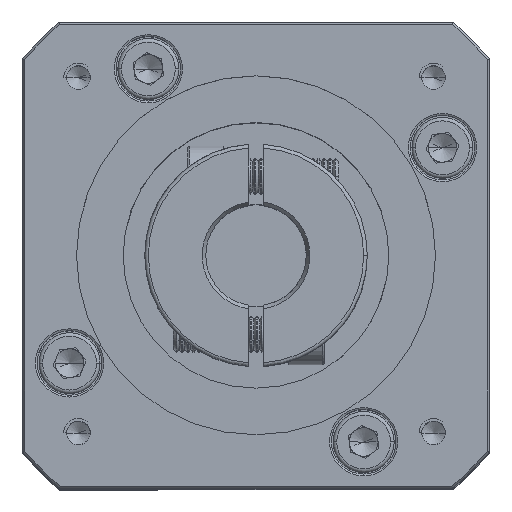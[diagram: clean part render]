
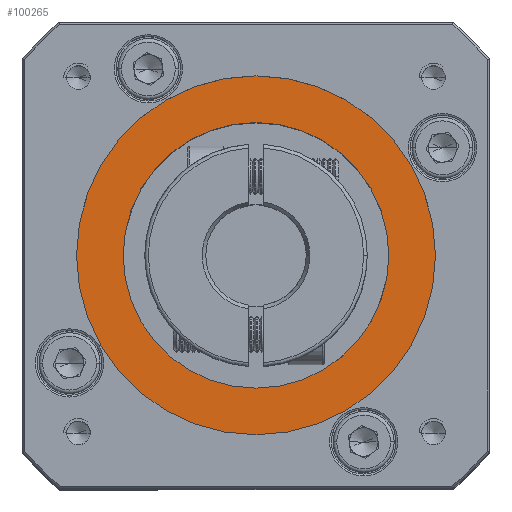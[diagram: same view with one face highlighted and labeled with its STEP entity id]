
A CAD part, top view. The second image highlights one B-rep face of the part: STEP entity #100265.
In plain terms, the highlighted planar face has unit normal (0, 0, 1).
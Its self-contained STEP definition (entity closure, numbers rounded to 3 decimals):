
#2747 = EDGE_CURVE ( 'NONE', #34158, #24215, #83728, .T. ) ;
#3160 = FACE_OUTER_BOUND ( 'NONE', #17713, .T. ) ;
#6562 = CARTESIAN_POINT ( 'NONE',  ( -3.116, 13.876, 148.65 ) ) ;
#14926 = DIRECTION ( 'NONE',  ( 0., 0., 1. ) ) ;
#15004 = CARTESIAN_POINT ( 'NONE',  ( 15.384, 13.876, 148.65 ) ) ;
#15144 = CARTESIAN_POINT ( 'NONE',  ( 15.384, 13.876, 148.65 ) ) ;
#15447 = DIRECTION ( 'NONE',  ( 1., 0., 0. ) ) ;
#17713 = EDGE_LOOP ( 'NONE', ( #76106, #20527 ) ) ;
#20527 = ORIENTED_EDGE ( 'NONE', *, *, #2747, .T. ) ;
#22945 = DIRECTION ( 'NONE',  ( 1., 0., 0. ) ) ;
#24215 = VERTEX_POINT ( 'NONE', #94995 ) ;
#25136 = DIRECTION ( 'NONE',  ( 0., 0., -1. ) ) ;
#30129 = DIRECTION ( 'NONE',  ( 0., 0., 1. ) ) ;
#32185 = EDGE_CURVE ( 'NONE', #24215, #34158, #81584, .T. ) ;
#33947 = VERTEX_POINT ( 'NONE', #50870 ) ;
#34158 = VERTEX_POINT ( 'NONE', #60736 ) ;
#41070 = CARTESIAN_POINT ( 'NONE',  ( 15.384, 13.876, 148.65 ) ) ;
#48877 = DIRECTION ( 'NONE',  ( 1., 0., 0. ) ) ;
#50870 = CARTESIAN_POINT ( 'NONE',  ( 33.884, 13.876, 148.65 ) ) ;
#51664 = EDGE_LOOP ( 'NONE', ( #57526, #86820 ) ) ;
#57526 = ORIENTED_EDGE ( 'NONE', *, *, #58658, .T. ) ;
#58043 = AXIS2_PLACEMENT_3D ( 'NONE', #15144, #69360, #22945 ) ;
#58658 = EDGE_CURVE ( 'NONE', #33947, #94023, #86513, .T. ) ;
#60736 = CARTESIAN_POINT ( 'NONE',  ( -9.616, 13.876, 148.65 ) ) ;
#61294 = CIRCLE ( 'NONE', #68940, 18.5 ) ;
#62660 = FACE_BOUND ( 'NONE', #51664, .T. ) ;
#67162 = AXIS2_PLACEMENT_3D ( 'NONE', #15004, #14926, #15447 ) ;
#68547 = EDGE_CURVE ( 'NONE', #94023, #33947, #61294, .T. ) ;
#68940 = AXIS2_PLACEMENT_3D ( 'NONE', #41070, #95120, #48877 ) ;
#69360 = DIRECTION ( 'NONE',  ( 0., 0., 1. ) ) ;
#71504 = CARTESIAN_POINT ( 'NONE',  ( 15.384, 13.876, 148.65 ) ) ;
#76106 = ORIENTED_EDGE ( 'NONE', *, *, #32185, .T. ) ;
#76446 = CARTESIAN_POINT ( 'NONE',  ( 15.384, 13.876, 148.65 ) ) ;
#78087 = AXIS2_PLACEMENT_3D ( 'NONE', #76446, #30129, #84203 ) ;
#79238 = DIRECTION ( 'NONE',  ( 1., 0., 0. ) ) ;
#80190 = AXIS2_PLACEMENT_3D ( 'NONE', #71504, #25136, #79238 ) ;
#81584 = CIRCLE ( 'NONE', #78087, 25. ) ;
#83728 = CIRCLE ( 'NONE', #67162, 25. ) ;
#84203 = DIRECTION ( 'NONE',  ( 1., 0., 0. ) ) ;
#86513 = CIRCLE ( 'NONE', #80190, 18.5 ) ;
#86820 = ORIENTED_EDGE ( 'NONE', *, *, #68547, .T. ) ;
#94023 = VERTEX_POINT ( 'NONE', #6562 ) ;
#94995 = CARTESIAN_POINT ( 'NONE',  ( 40.384, 13.876, 148.65 ) ) ;
#95120 = DIRECTION ( 'NONE',  ( 0., 0., -1. ) ) ;
#99744 = PLANE ( 'NONE',  #58043 ) ;
#100265 = ADVANCED_FACE ( 'NONE', ( #3160, #62660 ), #99744, .T. ) ;
